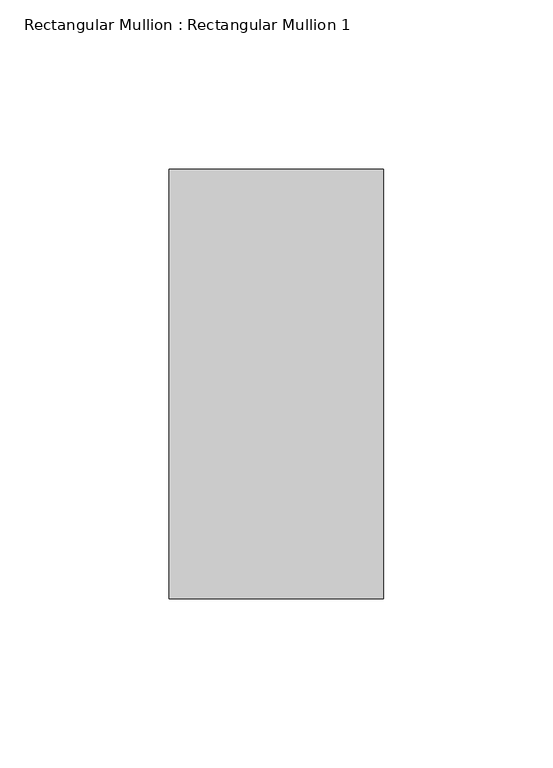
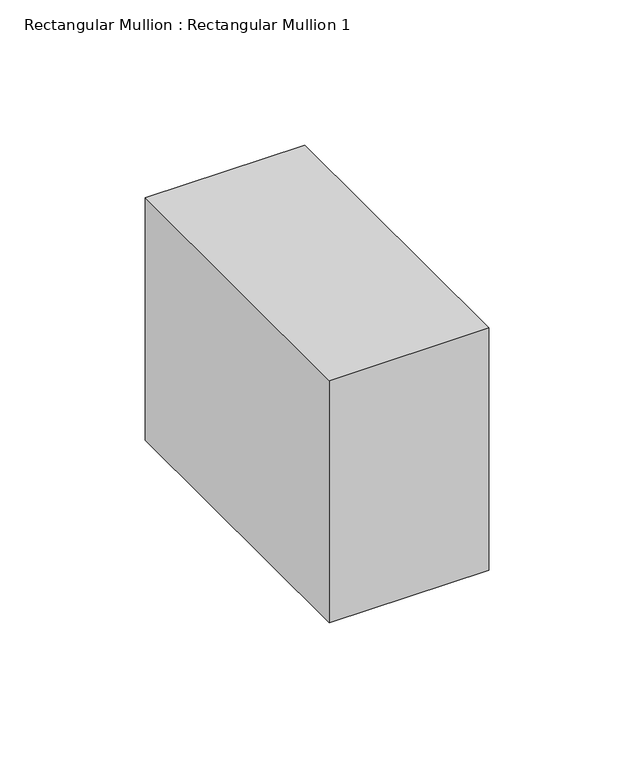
"""IFC4 building model written with IfcOpenShell, lengths in millimetres: member geometry, Rectangular Mullion : Rectangular Mullion 1."""

import ifcopenshell
import ifcopenshell.guid

model = None  # the IFC model being written
_history = None  # IfcOwnerHistory: only IFC2X3 demands one
_inside = {}  # id of a spatial element -> (the spatial element, [elements in it])
_under = {}  # id of a project, library or spatial element -> (it, [spatial elements below it])
_declared = {}  # id of a project -> (the project, [libraries it declares])
_typed = {}  # id of a type object -> (the type object, [elements of that type])
_made_of = {}  # id of a material, layer set ... -> (it, [elements and type objects made of it])


def new_model(schema):
    """Start an empty IFC model of exactly this schema.

    Asked for "IFC4X3", IfcOpenShell would pick the latest addendum, in which some entities
    have other attributes; the version numbers below select the first issue.
    IFC2X3 requires an IfcOwnerHistory on every rooted entity: one is made here for all.
    """
    global model, _history
    if schema == "IFC4X3":
        model = ifcopenshell.file(schema_version=(4, 3, 0, 0))
    else:
        model = ifcopenshell.file(schema=schema)
    _inside.clear()
    _under.clear()
    _declared.clear()
    _typed.clear()
    _made_of.clear()
    _history = None
    if model.schema == "IFC2X3":
        org = make("IfcOrganization", Name="unknown")
        user = make(
            "IfcPersonAndOrganization",
            ThePerson=make("IfcPerson", FamilyName="unknown"),
            TheOrganization=org,
        )
        app = make(
            "IfcApplication",
            ApplicationDeveloper=org,
            Version="unknown",
            ApplicationFullName="unknown",
            ApplicationIdentifier="unknown",
        )
        _history = make(
            "IfcOwnerHistory",
            OwningUser=user,
            OwningApplication=app,
            ChangeAction="ADDED",
            CreationDate=0,
        )
    return model


def make(cls, **values):
    """One entity of the class cls with the attributes given. An attribute that is None is left unset."""
    return model.create_entity(
        cls, **{name: value for name, value in values.items() if value is not None}
    )


def rooted(cls, **values):
    """An entity with a GlobalId (a new one), such as an element, a storey or a relation."""
    return make(cls, GlobalId=ifcopenshell.guid.new(), OwnerHistory=_history, **values)


def si_unit(unit_type, name, prefix=None):
    """IfcSIUnit, for example si_unit("LENGTHUNIT", "METRE", prefix="MILLI")."""
    return make("IfcSIUnit", UnitType=unit_type, Prefix=prefix, Name=name)


def assignment(units):
    """IfcUnitAssignment: the units of a project."""
    return None if units is None else make("IfcUnitAssignment", Units=units)


def point(xyz):
    """IfcCartesianPoint."""
    return None if xyz is None else make("IfcCartesianPoint", Coordinates=xyz)


def direction(xyz):
    """IfcDirection."""
    return None if xyz is None else make("IfcDirection", DirectionRatios=xyz)


def frame(location, z_axis=None, x_axis=None):
    """IfcAxis2Placement3D, a coordinate frame: its origin and axes. An axis left out is left unset."""
    return make(
        "IfcAxis2Placement3D",
        Location=point(location),
        Axis=direction(z_axis),
        RefDirection=direction(x_axis),
    )


def origin():
    """The frame at (0, 0, 0) with its axes left unset."""
    return frame((0.0, 0.0, 0.0))


def place(relative_to, where):
    """IfcLocalPlacement: puts the frame where relative to a parent placement (None: the world)."""
    return make(
        "IfcLocalPlacement", PlacementRelTo=relative_to, RelativePlacement=where
    )


def context(
    kind, dimensions, precision=None, world=None, true_north=None, identifier=None
):
    """IfcGeometricRepresentationContext, for example the 3D "Model" context."""
    return make(
        "IfcGeometricRepresentationContext",
        ContextIdentifier=identifier,
        ContextType=kind,
        CoordinateSpaceDimension=dimensions,
        Precision=precision,
        WorldCoordinateSystem=world,
        TrueNorth=true_north,
    )


def project(units=None, contexts=None):
    """IfcProject with its units and contexts."""
    return rooted(
        "IfcProject",
        Name="project",
        RepresentationContexts=contexts,
        UnitsInContext=assignment(units),
    )


def spatial(cls, under=None, at=None, **own):
    """A site, building, storey or space (cls), placed at a placement, below another one or the project."""
    s = rooted(cls, ObjectPlacement=at, **own)
    if under is not None:
        _under.setdefault(under.id(), (under, []))[1].append(s)
    return s


def polyline(points):
    """IfcPolyline through the points."""
    return make("IfcPolyline", Points=[point(p) for p in points])


def outline(outer, holes=None, kind="AREA"):
    """IfcArbitraryClosedProfileDef: a profile drawn as a closed curve; with holes, ...WithVoids."""
    if holes is None:
        return make("IfcArbitraryClosedProfileDef", ProfileType=kind, OuterCurve=outer)
    return make(
        "IfcArbitraryProfileDefWithVoids",
        ProfileType=kind,
        OuterCurve=outer,
        InnerCurves=holes,
    )


def extrude(swept, where, along, depth):
    """IfcExtrudedAreaSolid: the profile swept, set in the frame where, extruded along a direction by depth."""
    return make(
        "IfcExtrudedAreaSolid",
        SweptArea=swept,
        Position=where,
        ExtrudedDirection=direction(along),
        Depth=depth,
    )


def shape(context_of_items, identifier, shape_type, items):
    """IfcShapeRepresentation: the items that make up one representation, for example the "Body"."""
    return make(
        "IfcShapeRepresentation",
        ContextOfItems=context_of_items,
        RepresentationIdentifier=identifier,
        RepresentationType=shape_type,
        Items=items,
    )


def source(mapping_origin, context_of_items, identifier, shape_type, items):
    """IfcRepresentationMap: a shape defined once, which mapped items show again and again."""
    return make(
        "IfcRepresentationMap",
        MappingOrigin=mapping_origin,
        MappedRepresentation=shape(context_of_items, identifier, shape_type, items),
    )


def transform(
    local_origin,
    x_axis=None,
    y_axis=None,
    z_axis=None,
    scale=None,
    scale2=None,
    scale3=None,
    uniform=True,
):
    """IfcCartesianTransformationOperator3D, or its non-uniform kind. x_axis, y_axis, z_axis: its Axis1, 2, 3."""
    if uniform:
        return make(
            "IfcCartesianTransformationOperator3D",
            Axis1=direction(x_axis),
            Axis2=direction(y_axis),
            LocalOrigin=point(local_origin),
            Scale=scale,
            Axis3=direction(z_axis),
        )
    return make(
        "IfcCartesianTransformationOperator3DnonUniform",
        Axis1=direction(x_axis),
        Axis2=direction(y_axis),
        LocalOrigin=point(local_origin),
        Scale=scale,
        Axis3=direction(z_axis),
        Scale2=scale2,
        Scale3=scale3,
    )


def mapped(mapping_source, mapping_target):
    """IfcMappedItem: shows the shape of a source again, moved by a transform."""
    return make(
        "IfcMappedItem", MappingSource=mapping_source, MappingTarget=mapping_target
    )


def made_of(thing, what):
    """Note that an element or type object is made of a material, layer set ...; save() writes the relation."""
    if what is not None:
        _made_of.setdefault(what.id(), (what, []))[1].append(thing)
    return thing


def element(
    cls,
    number,
    at=None,
    inside=None,
    cuts=None,
    type_object=None,
    material=None,
    context=None,
    identifier="Body",
    shape_type=None,
    held_by="IfcProductDefinitionShape",
    body=None,
    shapes=None,
    **own,
):
    """One element of the class cls, such as IfcWall. Its Tag is "e" and its number.

    at: its placement. inside: the storey or other place that contains it. cuts: it is an
    opening in that element (IfcRelVoidsElement). A single representation is given by context,
    identifier, shape_type and body (its items); several are given by shapes. held_by: the class
    of the entity that holds the representations. save() writes the other relations.
    """
    e = rooted(cls, Tag="e%d" % number, ObjectPlacement=at, **own)
    if body is not None:
        shapes = [shape(context, identifier, shape_type, body)]
    if shapes is not None:
        e.Representation = make(held_by, Representations=shapes)
    if inside is not None:
        _inside.setdefault(inside.id(), (inside, []))[1].append(e)
    if cuts is not None:
        rooted(
            "IfcRelVoidsElement", RelatingBuildingElement=cuts, RelatedOpeningElement=e
        )
    if type_object is not None:
        _typed.setdefault(type_object.id(), (type_object, []))[1].append(e)
    return made_of(e, material)


def aggregate(whole, parts):
    """IfcRelAggregates: a whole, such as a stair, and the parts it consists of."""
    return rooted("IfcRelAggregates", RelatingObject=whole, RelatedObjects=parts)


def save(model, path):
    """Write the relations noted so far, then the file.

    IfcRelAggregates (storeys below a building ...), IfcRelContainedInSpatialStructure (elements
    in a storey), IfcRelDefinesByType, IfcRelAssociatesMaterial and IfcRelDeclares: one each for
    every whole, place, type object, material and project.
    """
    for whole, parts in _under.values():
        aggregate(whole, parts)
    for where, things in _inside.values():
        rooted(
            "IfcRelContainedInSpatialStructure",
            RelatedElements=things,
            RelatingStructure=where,
        )
    for kind, things in _typed.values():
        rooted("IfcRelDefinesByType", RelatedObjects=things, RelatingType=kind)
    for what, things in _made_of.values():
        rooted("IfcRelAssociatesMaterial", RelatedObjects=things, RelatingMaterial=what)
    for by, libraries in _declared.values():
        rooted("IfcRelDeclares", RelatingContext=by, RelatedDefinitions=libraries)
    model.write(path)


def rectangular_mullion_rectangular_mullion_1_4b421c8f(model_context):
    return source(origin(), model_context, "Body", "SweptSolid", [
        extrude(outline(polyline([(31.75, 63.5), (31.75, -63.5), (-31.75, -63.5), (-31.75, 63.5), (31.75, 63.5)])), frame((0.0, 0.0, -101.9279646), z_axis=(0.0, 0.0, 1.0), x_axis=(1.0, 0.0, 0.0)), (0.0, 0.0, 1.0), 101.9279646),
    ])


if __name__ == "__main__":
    model = new_model("IFC4")
    model_context = context("Model", 3, world=origin())
    ifc_project = project(units=[si_unit("LENGTHUNIT", "METRE", prefix="MILLI")], contexts=[model_context])
    site = spatial("IfcSite", under=ifc_project)
    building = spatial("IfcBuilding", under=site)
    placement = place(None, origin())
    rectangular_mullion_rectangular_mullion_1_shape = rectangular_mullion_rectangular_mullion_1_4b421c8f(model_context)
    element("IfcMember", 1, ObjectType="Rectangular Mullion : Rectangular Mullion 1", at=placement, inside=building, context=model_context, shape_type="MappedRepresentation", body=[
        mapped(rectangular_mullion_rectangular_mullion_1_shape, transform((0.0, 0.0, 0.0), x_axis=(1.0, 0.0, 0.0), y_axis=(0.0, 1.0, 0.0), z_axis=(0.0, 0.0, 1.0))),
    ])
    save(model, "model.ifc")
